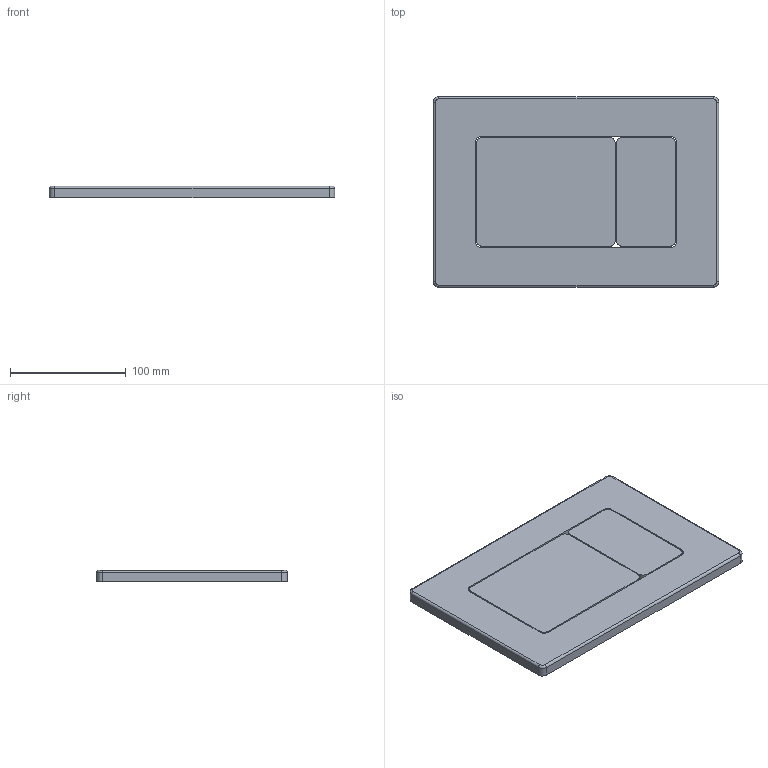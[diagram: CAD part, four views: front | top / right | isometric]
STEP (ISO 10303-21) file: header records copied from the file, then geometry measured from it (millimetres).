
FILE_DESCRIPTION (( 'STEP AP203' ), '1' );
FILE_NAME ('CST_F59P - S.STEP', '2026-08-20T11:42:31', ( '' ), ( '' ), 'SwSTEP 2.0', 'SolidWorks 2018', '' );
FILE_SCHEMA (( 'CONFIG_CONTROL_DESIGN' ));
Length unit declared in the file: millimetre
Products named in the file (1): CST_F59P - S
Bounding box: 247 x 165 x 10 mm (x, y, z)
Volume: 112028.2 mm3; surface area: 116119.3 mm2
Topology: 3 solids, 3 shells, 82 faces, 208 edges, 136 vertices
Faces by surface type: plane 42, cylinder 36, torus 4
Entity records: 2561 total; most frequent: DIRECTION 450, CARTESIAN_POINT 427, ORIENTED_EDGE 416, EDGE_CURVE 208, AXIS2_PLACEMENT_3D 159, VERTEX_POINT 136, LINE 132, VECTOR 132
